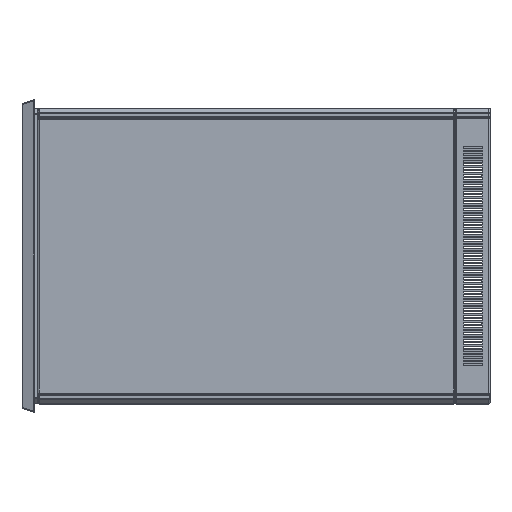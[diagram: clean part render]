
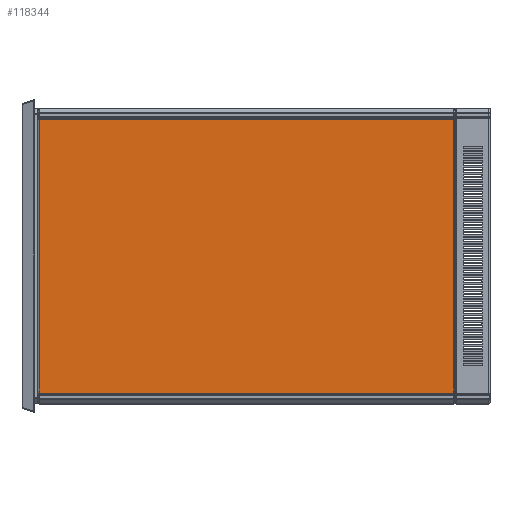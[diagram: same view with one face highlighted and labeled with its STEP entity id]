
A CAD part, left-side view. The second image highlights one B-rep face of the part: STEP entity #118344.
In plain terms, the highlighted planar face has unit normal (-1, 0, 0) as drawn and (0, 0, -1) by its records, which use the part's own axes.
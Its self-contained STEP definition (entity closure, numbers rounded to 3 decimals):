
#1203 = VECTOR ( 'NONE', #74540, 1000. ) ;
#5325 = DIRECTION ( 'NONE',  ( -1., 0., 0. ) ) ;
#9270 = PLANE ( 'NONE',  #144552 ) ;
#15971 = ORIENTED_EDGE ( 'NONE', *, *, #26048, .T. ) ;
#16326 = LINE ( 'NONE', #64168, #144003 ) ;
#19949 = CARTESIAN_POINT ( 'NONE',  ( 397.5, 0., 0. ) ) ;
#20296 = EDGE_LOOP ( 'NONE', ( #25089, #15971, #155268, #65837 ) ) ;
#25089 = ORIENTED_EDGE ( 'NONE', *, *, #149623, .T. ) ;
#26048 = EDGE_CURVE ( 'NONE', #49274, #82889, #142894, .T. ) ;
#30965 = CARTESIAN_POINT ( 'NONE',  ( 397.5, -602.5, 0. ) ) ;
#36219 = CARTESIAN_POINT ( 'NONE',  ( -397.5, 0., 0. ) ) ;
#49274 = VERTEX_POINT ( 'NONE', #130279 ) ;
#51987 = EDGE_CURVE ( 'NONE', #126436, #59582, #134797, .T. ) ;
#57084 = DIRECTION ( 'NONE',  ( 0., 0., 1. ) ) ;
#59582 = VERTEX_POINT ( 'NONE', #80019 ) ;
#64168 = CARTESIAN_POINT ( 'NONE',  ( 0., -602.5, 0. ) ) ;
#64192 = DIRECTION ( 'NONE',  ( 0., 1., 0. ) ) ;
#65837 = ORIENTED_EDGE ( 'NONE', *, *, #51987, .T. ) ;
#67788 = DIRECTION ( 'NONE',  ( 0., -1., 0. ) ) ;
#74540 = DIRECTION ( 'NONE',  ( 1., 0., 0. ) ) ;
#78301 = FACE_OUTER_BOUND ( 'NONE', #20296, .T. ) ;
#78736 = VECTOR ( 'NONE', #67788, 1000. ) ;
#80019 = CARTESIAN_POINT ( 'NONE',  ( -397.5, 602.5, 0. ) ) ;
#82889 = VERTEX_POINT ( 'NONE', #30965 ) ;
#88813 = CARTESIAN_POINT ( 'NONE',  ( -397.5, -602.5, 0. ) ) ;
#102539 = EDGE_CURVE ( 'NONE', #82889, #126436, #16326, .T. ) ;
#110976 = VECTOR ( 'NONE', #64192, 1000. ) ;
#118344 = ADVANCED_FACE ( 'NONE', ( #78301 ), #9270, .F. ) ;
#126175 = CARTESIAN_POINT ( 'NONE',  ( 0., 0., 0. ) ) ;
#126436 = VERTEX_POINT ( 'NONE', #88813 ) ;
#130279 = CARTESIAN_POINT ( 'NONE',  ( 397.5, 602.5, 0. ) ) ;
#132653 = CARTESIAN_POINT ( 'NONE',  ( 0., 602.5, 0. ) ) ;
#134797 = LINE ( 'NONE', #36219, #110976 ) ;
#137955 = DIRECTION ( 'NONE',  ( 1., 0., 0. ) ) ;
#142894 = LINE ( 'NONE', #19949, #78736 ) ;
#144003 = VECTOR ( 'NONE', #5325, 1000. ) ;
#144430 = LINE ( 'NONE', #132653, #1203 ) ;
#144552 = AXIS2_PLACEMENT_3D ( 'NONE', #126175, #57084, #137955 ) ;
#149623 = EDGE_CURVE ( 'NONE', #59582, #49274, #144430, .T. ) ;
#155268 = ORIENTED_EDGE ( 'NONE', *, *, #102539, .T. ) ;
